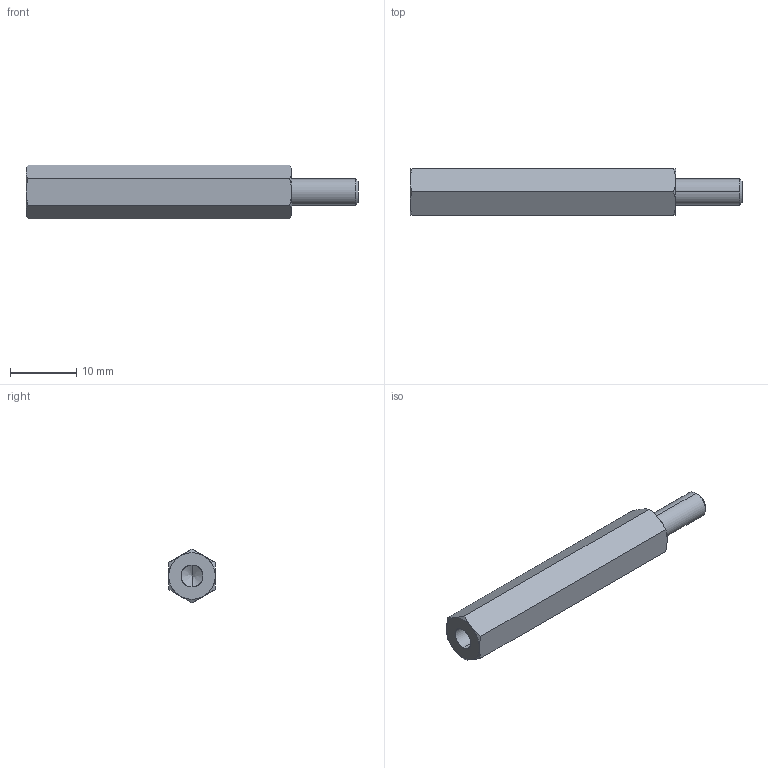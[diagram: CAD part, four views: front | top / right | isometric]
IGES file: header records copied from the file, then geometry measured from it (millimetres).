
Start section: SolidWorks IGES file using analytic representation for surfaces
Global section: file name: C:\Users\render1\Desktop\P0185_IGES\P0185.04-40.igs; native system: SolidWorks 2009; preprocessor: SolidWorks 2009; author: render1; date: 130627.112155; units: millimetre
Bounding box: 50 x 7 x 8.08 mm (x, y, z)
Surface area: 1278.8 mm2 (no closed solid volume)
Topology: 0 solids, 0 shells, 29 faces, 320 edges, 318 vertices
Faces by surface type: revolution 20, bspline 9
